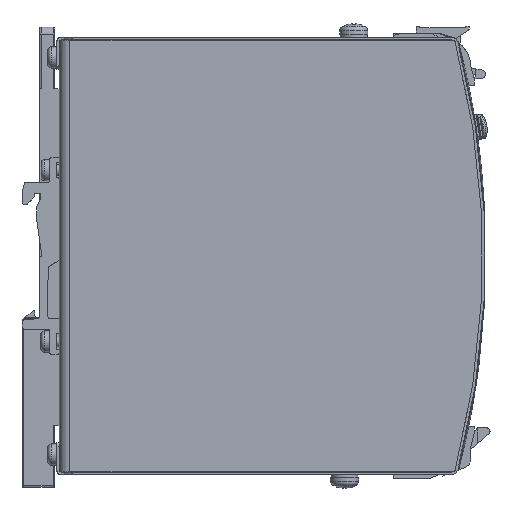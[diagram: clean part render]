
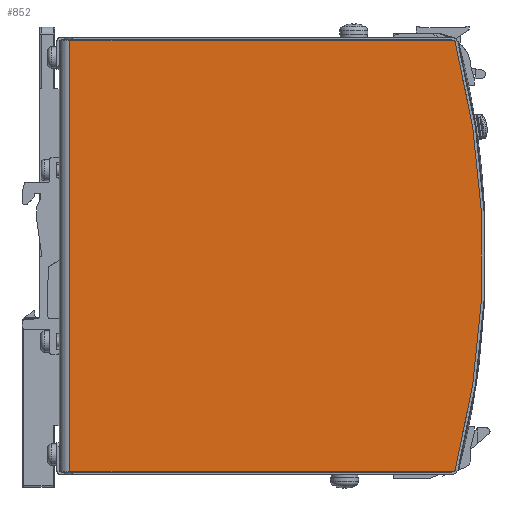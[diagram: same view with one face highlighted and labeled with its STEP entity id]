
A CAD part, front view. The second image highlights one B-rep face of the part: STEP entity #852.
In plain terms, the highlighted planar face has unit normal (0, -1, 0).
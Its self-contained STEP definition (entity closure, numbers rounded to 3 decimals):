
#228=CARTESIAN_POINT('',(112.177,-41.,-60.777));
#229=VERTEX_POINT('',#228);
#230=CARTESIAN_POINT('',(111.693,-41.,-61.15));
#231=VERTEX_POINT('',#230);
#232=CARTESIAN_POINT('',(111.693,-41.,-60.65));
#233=DIRECTION('',(0.0,1.,0.0));
#234=DIRECTION('',(0.611,0.0,-0.792));
#235=AXIS2_PLACEMENT_3D('',#232,#233,#234);
#236=CIRCLE('',#235,0.5);
#237=EDGE_CURVE('',#229,#231,#236,.T.);
#280=CARTESIAN_POINT('',(112.177,-41.,60.777));
#281=VERTEX_POINT('',#280);
#288=CARTESIAN_POINT('',(-120.,-41.,0.));
#289=DIRECTION('',(0.0,-1.,0.0));
#290=DIRECTION('',(-0.967,0.0,-0.255));
#291=AXIS2_PLACEMENT_3D('',#288,#289,#290);
#292=CIRCLE('',#291,240.0);
#293=EDGE_CURVE('',#229,#281,#292,.T.);
#369=CARTESIAN_POINT('',(111.693,-41.,61.15));
#370=VERTEX_POINT('',#369);
#371=CARTESIAN_POINT('',(111.693,-41.,60.65));
#372=DIRECTION('',(0.0,1.0,0.0));
#373=DIRECTION('',(0.611,0.0,0.792));
#374=AXIS2_PLACEMENT_3D('',#371,#372,#373);
#375=CIRCLE('',#374,0.5);
#376=EDGE_CURVE('',#370,#281,#375,.T.);
#664=CARTESIAN_POINT('',(3.,-41.,-61.15));
#665=VERTEX_POINT('',#664);
#666=CARTESIAN_POINT('',(111.693,-41.,-61.15));
#667=DIRECTION('',(-1.0,0.0,0.0));
#668=VECTOR('',#667,108.693);
#669=LINE('',#666,#668);
#670=EDGE_CURVE('',#231,#665,#669,.T.);
#807=CARTESIAN_POINT('',(3.,-41.,61.15));
#808=VERTEX_POINT('',#807);
#809=CARTESIAN_POINT('',(3.,-41.,61.15));
#810=DIRECTION('',(0.0,0.0,-1.0));
#811=VECTOR('',#810,122.3);
#812=LINE('',#809,#811);
#813=EDGE_CURVE('',#808,#665,#812,.T.);
#834=CARTESIAN_POINT('',(130.,-41.,-61.15));
#835=DIRECTION('',(0.0,-1.0,0.0));
#836=DIRECTION('',(0.0,0.0,-1.0));
#837=AXIS2_PLACEMENT_3D('',#834,#835,#836);
#838=PLANE('',#837);
#839=ORIENTED_EDGE('',*,*,#237,.F.);
#840=ORIENTED_EDGE('',*,*,#293,.T.);
#841=ORIENTED_EDGE('',*,*,#376,.F.);
#842=CARTESIAN_POINT('',(111.693,-41.,61.15));
#843=DIRECTION('',(-1.0,0.0,0.0));
#844=VECTOR('',#843,108.693);
#845=LINE('',#842,#844);
#846=EDGE_CURVE('',#370,#808,#845,.T.);
#847=ORIENTED_EDGE('',*,*,#846,.T.);
#848=ORIENTED_EDGE('',*,*,#813,.T.);
#849=ORIENTED_EDGE('',*,*,#670,.F.);
#850=EDGE_LOOP('',(#839,#840,#841,#847,#848,#849));
#851=FACE_OUTER_BOUND('',#850,.T.);
#852=ADVANCED_FACE('',(#851),#838,.T.);
